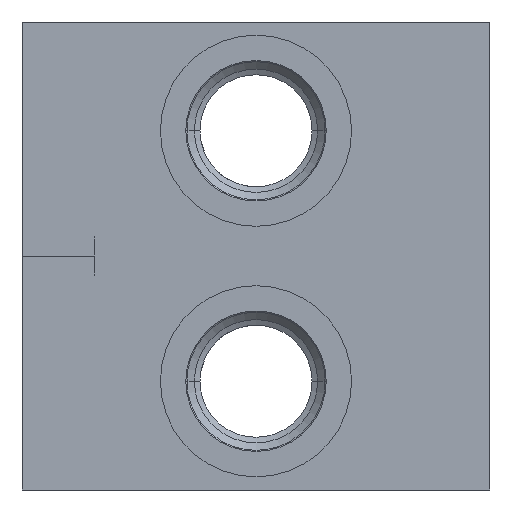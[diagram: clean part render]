
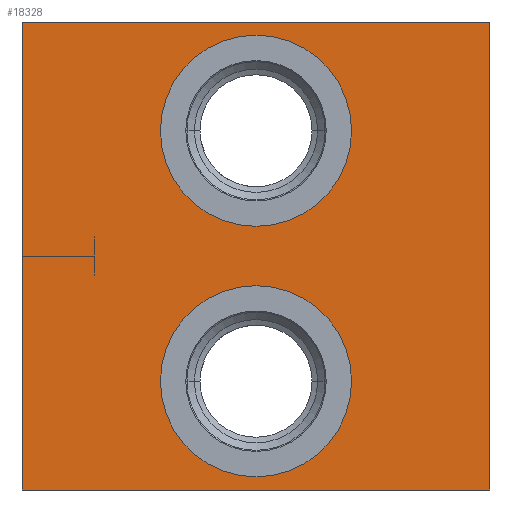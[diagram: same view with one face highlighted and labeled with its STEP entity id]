
A CAD part, left-side view. The second image highlights one B-rep face of the part: STEP entity #18328.
In plain terms, the highlighted planar face has unit normal (-1, 0, 0).
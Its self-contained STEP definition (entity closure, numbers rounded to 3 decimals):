
#26=DIRECTION('',(0.,-1.,0.));
#27=VECTOR('',#26,71.);
#28=CARTESIAN_POINT('',(0.,71.,0.));
#29=LINE('',#28,#27);
#367=DIRECTION('',(0.,0.,-1.));
#368=VECTOR('',#367,71.);
#369=CARTESIAN_POINT('',(0.,0.,0.));
#370=LINE('',#369,#368);
#2834=DIRECTION('',(0.,0.,-1.));
#2835=VECTOR('',#2834,71.);
#2836=CARTESIAN_POINT('',(0.,71.,0.));
#2837=LINE('',#2836,#2835);
#2841=CARTESIAN_POINT('',(0.,35.5,-54.5));
#2842=DIRECTION('',(1.,0.,0.));
#2843=DIRECTION('',(0.,-1.,0.));
#2844=AXIS2_PLACEMENT_3D('',#2841,#2842,#2843);
#2849=CARTESIAN_POINT('',(0.,35.5,-54.5));
#2850=DIRECTION('',(1.,0.,0.));
#2851=DIRECTION('',(0.,1.,0.));
#2852=AXIS2_PLACEMENT_3D('',#2849,#2850,#2851);
#2857=CARTESIAN_POINT('',(0.,35.5,-16.5));
#2858=DIRECTION('',(1.,0.,0.));
#2859=DIRECTION('',(0.,-1.,0.));
#2860=AXIS2_PLACEMENT_3D('',#2857,#2858,#2859);
#2865=CARTESIAN_POINT('',(0.,35.5,-16.5));
#2866=DIRECTION('',(1.,0.,0.));
#2867=DIRECTION('',(0.,1.,0.));
#2868=AXIS2_PLACEMENT_3D('',#2865,#2866,#2867);
#2894=DIRECTION('',(0.,-1.,0.));
#2895=VECTOR('',#2894,71.);
#2896=CARTESIAN_POINT('',(0.,71.,-71.));
#2897=LINE('',#2896,#2895);
#16136=CARTESIAN_POINT('',(0.,0.,0.));
#16138=VERTEX_POINT('',#16136);
#16142=CARTESIAN_POINT('',(0.,71.,0.));
#16143=VERTEX_POINT('',#16142);
#16144=CARTESIAN_POINT('',(0.,0.,-71.));
#16146=VERTEX_POINT('',#16144);
#16150=CARTESIAN_POINT('',(0.,71.,-71.));
#16151=VERTEX_POINT('',#16150);
#16208=CARTESIAN_POINT('',(0.,21.,-54.5));
#16209=CARTESIAN_POINT('',(0.,50.,-54.5));
#16210=VERTEX_POINT('',#16208);
#16211=VERTEX_POINT('',#16209);
#16228=CARTESIAN_POINT('',(0.,21.,-16.5));
#16229=CARTESIAN_POINT('',(0.,50.,-16.5));
#16230=VERTEX_POINT('',#16228);
#16231=VERTEX_POINT('',#16229);
#18304=CARTESIAN_POINT('',(0.,71.,0.));
#18305=DIRECTION('',(-1.,0.,0.));
#18306=DIRECTION('',(0.,-1.,0.));
#18307=AXIS2_PLACEMENT_3D('',#18304,#18305,#18306);
#18308=PLANE('',#18307);
#18309=ORIENTED_EDGE('',*,*,#17592,.T.);
#18310=ORIENTED_EDGE('',*,*,#17743,.T.);
#18312=ORIENTED_EDGE('',*,*,#18311,.F.);
#18313=ORIENTED_EDGE('',*,*,#17840,.F.);
#18314=EDGE_LOOP('',(#18309,#18310,#18312,#18313));
#18315=FACE_OUTER_BOUND('',#18314,.F.);
#18317=ORIENTED_EDGE('',*,*,#18316,.F.);
#18319=ORIENTED_EDGE('',*,*,#18318,.F.);
#18320=EDGE_LOOP('',(#18317,#18319));
#18321=FACE_BOUND('',#18320,.F.);
#18323=ORIENTED_EDGE('',*,*,#18322,.F.);
#18325=ORIENTED_EDGE('',*,*,#18324,.F.);
#18326=EDGE_LOOP('',(#18323,#18325));
#18327=FACE_BOUND('',#18326,.F.);
#2845=CIRCLE('',#2844,14.5);
#2853=CIRCLE('',#2852,14.5);
#2861=CIRCLE('',#2860,14.5);
#2869=CIRCLE('',#2868,14.5);
#17592=EDGE_CURVE('',#16143,#16138,#29,.T.);
#17743=EDGE_CURVE('',#16138,#16146,#370,.T.);
#17840=EDGE_CURVE('',#16143,#16151,#2837,.T.);
#18311=EDGE_CURVE('',#16151,#16146,#2897,.T.);
#18316=EDGE_CURVE('',#16210,#16211,#2845,.T.);
#18318=EDGE_CURVE('',#16211,#16210,#2853,.T.);
#18322=EDGE_CURVE('',#16230,#16231,#2861,.T.);
#18324=EDGE_CURVE('',#16231,#16230,#2869,.T.);
#18328=ADVANCED_FACE('',(#18315,#18321,#18327),#18308,.T.);
